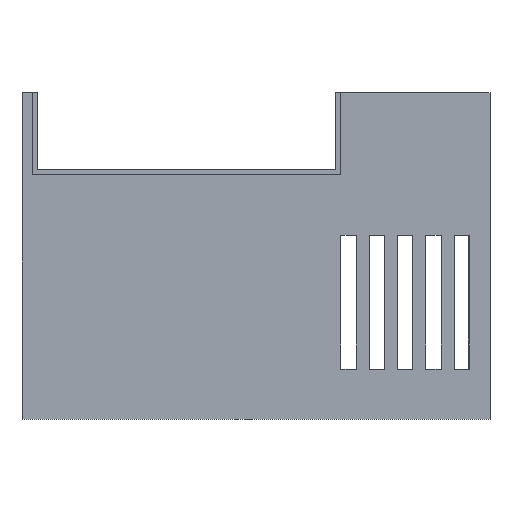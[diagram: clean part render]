
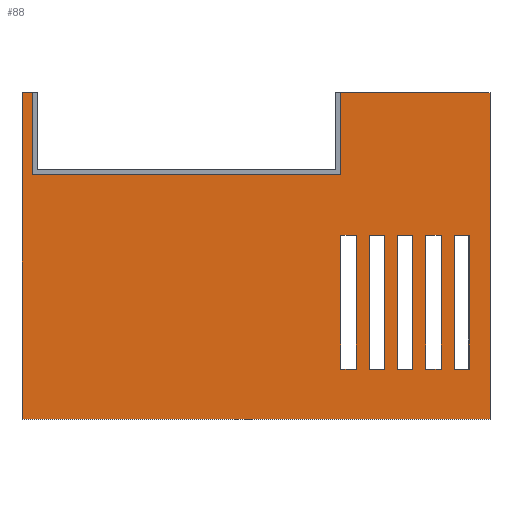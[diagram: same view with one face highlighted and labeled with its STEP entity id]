
A CAD part, top view. The second image highlights one B-rep face of the part: STEP entity #88.
In plain terms, the highlighted planar face has unit normal (0, 0, 1).
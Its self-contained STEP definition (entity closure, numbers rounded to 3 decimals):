
#24 = VERTEX_POINT('',#25);
#25 = CARTESIAN_POINT('',(0.,0.,32.7));
#40 = VERTEX_POINT('',#41);
#41 = CARTESIAN_POINT('',(0.,63.5,32.7));
#47 = EDGE_CURVE('',#24,#40,#48,.T.);
#48 = LINE('',#49,#50);
#49 = CARTESIAN_POINT('',(0.,0.,32.7));
#50 = VECTOR('',#51,1.);
#51 = DIRECTION('',(0.,1.,0.));
#70 = EDGE_CURVE('',#24,#71,#73,.T.);
#71 = VERTEX_POINT('',#72);
#72 = CARTESIAN_POINT('',(91.,0.,32.7));
#73 = LINE('',#74,#75);
#74 = CARTESIAN_POINT('',(0.,0.,32.7));
#75 = VECTOR('',#76,1.);
#76 = DIRECTION('',(1.,0.,0.));
#88 = ADVANCED_FACE('',(#89,#139,#173,#207,#241,#275),#309,.T.);
#89 = FACE_BOUND('',#90,.T.);
#90 = EDGE_LOOP('',(#91,#99,#100,#101,#109,#117,#125,#133));
#91 = ORIENTED_EDGE('',*,*,#92,.F.);
#92 = EDGE_CURVE('',#40,#93,#95,.T.);
#93 = VERTEX_POINT('',#94);
#94 = CARTESIAN_POINT('',(2.,63.5,32.7));
#95 = LINE('',#96,#97);
#96 = CARTESIAN_POINT('',(0.,63.5,32.7));
#97 = VECTOR('',#98,1.);
#98 = DIRECTION('',(1.,0.,0.));
#99 = ORIENTED_EDGE('',*,*,#47,.F.);
#100 = ORIENTED_EDGE('',*,*,#70,.T.);
#101 = ORIENTED_EDGE('',*,*,#102,.T.);
#102 = EDGE_CURVE('',#71,#103,#105,.T.);
#103 = VERTEX_POINT('',#104);
#104 = CARTESIAN_POINT('',(91.,63.5,32.7));
#105 = LINE('',#106,#107);
#106 = CARTESIAN_POINT('',(91.,0.,32.7));
#107 = VECTOR('',#108,1.);
#108 = DIRECTION('',(0.,1.,0.));
#109 = ORIENTED_EDGE('',*,*,#110,.F.);
#110 = EDGE_CURVE('',#111,#103,#113,.T.);
#111 = VERTEX_POINT('',#112);
#112 = CARTESIAN_POINT('',(62.,63.5,32.7));
#113 = LINE('',#114,#115);
#114 = CARTESIAN_POINT('',(0.,63.5,32.7));
#115 = VECTOR('',#116,1.);
#116 = DIRECTION('',(1.,0.,0.));
#117 = ORIENTED_EDGE('',*,*,#118,.F.);
#118 = EDGE_CURVE('',#119,#111,#121,.T.);
#119 = VERTEX_POINT('',#120);
#120 = CARTESIAN_POINT('',(62.,47.5,32.7));
#121 = LINE('',#122,#123);
#122 = CARTESIAN_POINT('',(62.,23.75,32.7));
#123 = VECTOR('',#124,1.);
#124 = DIRECTION('',(0.,1.,0.));
#125 = ORIENTED_EDGE('',*,*,#126,.T.);
#126 = EDGE_CURVE('',#119,#127,#129,.T.);
#127 = VERTEX_POINT('',#128);
#128 = CARTESIAN_POINT('',(2.,47.5,32.7));
#129 = LINE('',#130,#131);
#130 = CARTESIAN_POINT('',(1.,47.5,32.7));
#131 = VECTOR('',#132,1.);
#132 = DIRECTION('',(-1.,0.,0.));
#133 = ORIENTED_EDGE('',*,*,#134,.T.);
#134 = EDGE_CURVE('',#127,#93,#135,.T.);
#135 = LINE('',#136,#137);
#136 = CARTESIAN_POINT('',(2.,23.75,32.7));
#137 = VECTOR('',#138,1.);
#138 = DIRECTION('',(0.,1.,0.));
#139 = FACE_BOUND('',#140,.T.);
#140 = EDGE_LOOP('',(#141,#151,#159,#167));
#141 = ORIENTED_EDGE('',*,*,#142,.F.);
#142 = EDGE_CURVE('',#143,#145,#147,.T.);
#143 = VERTEX_POINT('',#144);
#144 = CARTESIAN_POINT('',(65.,9.75,32.7));
#145 = VERTEX_POINT('',#146);
#146 = CARTESIAN_POINT('',(65.,35.75,32.7));
#147 = LINE('',#148,#149);
#148 = CARTESIAN_POINT('',(65.,4.875,32.7));
#149 = VECTOR('',#150,1.);
#150 = DIRECTION('',(0.,1.,0.));
#151 = ORIENTED_EDGE('',*,*,#152,.T.);
#152 = EDGE_CURVE('',#143,#153,#155,.T.);
#153 = VERTEX_POINT('',#154);
#154 = CARTESIAN_POINT('',(62.,9.75,32.7));
#155 = LINE('',#156,#157);
#156 = CARTESIAN_POINT('',(31.,9.75,32.7));
#157 = VECTOR('',#158,1.);
#158 = DIRECTION('',(-1.,0.,0.));
#159 = ORIENTED_EDGE('',*,*,#160,.T.);
#160 = EDGE_CURVE('',#153,#161,#163,.T.);
#161 = VERTEX_POINT('',#162);
#162 = CARTESIAN_POINT('',(62.,35.75,32.7));
#163 = LINE('',#164,#165);
#164 = CARTESIAN_POINT('',(62.,4.875,32.7));
#165 = VECTOR('',#166,1.);
#166 = DIRECTION('',(0.,1.,0.));
#167 = ORIENTED_EDGE('',*,*,#168,.F.);
#168 = EDGE_CURVE('',#145,#161,#169,.T.);
#169 = LINE('',#170,#171);
#170 = CARTESIAN_POINT('',(31.,35.75,32.7));
#171 = VECTOR('',#172,1.);
#172 = DIRECTION('',(-1.,0.,0.));
#173 = FACE_BOUND('',#174,.T.);
#174 = EDGE_LOOP('',(#175,#185,#193,#201));
#175 = ORIENTED_EDGE('',*,*,#176,.F.);
#176 = EDGE_CURVE('',#177,#179,#181,.T.);
#177 = VERTEX_POINT('',#178);
#178 = CARTESIAN_POINT('',(70.5,9.75,32.7));
#179 = VERTEX_POINT('',#180);
#180 = CARTESIAN_POINT('',(70.5,35.75,32.7));
#181 = LINE('',#182,#183);
#182 = CARTESIAN_POINT('',(70.5,4.875,32.7));
#183 = VECTOR('',#184,1.);
#184 = DIRECTION('',(0.,1.,0.));
#185 = ORIENTED_EDGE('',*,*,#186,.T.);
#186 = EDGE_CURVE('',#177,#187,#189,.T.);
#187 = VERTEX_POINT('',#188);
#188 = CARTESIAN_POINT('',(67.5,9.75,32.7));
#189 = LINE('',#190,#191);
#190 = CARTESIAN_POINT('',(33.75,9.75,32.7));
#191 = VECTOR('',#192,1.);
#192 = DIRECTION('',(-1.,0.,0.));
#193 = ORIENTED_EDGE('',*,*,#194,.T.);
#194 = EDGE_CURVE('',#187,#195,#197,.T.);
#195 = VERTEX_POINT('',#196);
#196 = CARTESIAN_POINT('',(67.5,35.75,32.7));
#197 = LINE('',#198,#199);
#198 = CARTESIAN_POINT('',(67.5,4.875,32.7));
#199 = VECTOR('',#200,1.);
#200 = DIRECTION('',(0.,1.,0.));
#201 = ORIENTED_EDGE('',*,*,#202,.F.);
#202 = EDGE_CURVE('',#179,#195,#203,.T.);
#203 = LINE('',#204,#205);
#204 = CARTESIAN_POINT('',(33.75,35.75,32.7));
#205 = VECTOR('',#206,1.);
#206 = DIRECTION('',(-1.,0.,0.));
#207 = FACE_BOUND('',#208,.T.);
#208 = EDGE_LOOP('',(#209,#219,#227,#235));
#209 = ORIENTED_EDGE('',*,*,#210,.F.);
#210 = EDGE_CURVE('',#211,#213,#215,.T.);
#211 = VERTEX_POINT('',#212);
#212 = CARTESIAN_POINT('',(76.,9.75,32.7));
#213 = VERTEX_POINT('',#214);
#214 = CARTESIAN_POINT('',(76.,35.75,32.7));
#215 = LINE('',#216,#217);
#216 = CARTESIAN_POINT('',(76.,4.875,32.7));
#217 = VECTOR('',#218,1.);
#218 = DIRECTION('',(0.,1.,0.));
#219 = ORIENTED_EDGE('',*,*,#220,.T.);
#220 = EDGE_CURVE('',#211,#221,#223,.T.);
#221 = VERTEX_POINT('',#222);
#222 = CARTESIAN_POINT('',(73.,9.75,32.7));
#223 = LINE('',#224,#225);
#224 = CARTESIAN_POINT('',(36.5,9.75,32.7));
#225 = VECTOR('',#226,1.);
#226 = DIRECTION('',(-1.,0.,0.));
#227 = ORIENTED_EDGE('',*,*,#228,.T.);
#228 = EDGE_CURVE('',#221,#229,#231,.T.);
#229 = VERTEX_POINT('',#230);
#230 = CARTESIAN_POINT('',(73.,35.75,32.7));
#231 = LINE('',#232,#233);
#232 = CARTESIAN_POINT('',(73.,4.875,32.7));
#233 = VECTOR('',#234,1.);
#234 = DIRECTION('',(0.,1.,0.));
#235 = ORIENTED_EDGE('',*,*,#236,.F.);
#236 = EDGE_CURVE('',#213,#229,#237,.T.);
#237 = LINE('',#238,#239);
#238 = CARTESIAN_POINT('',(36.5,35.75,32.7));
#239 = VECTOR('',#240,1.);
#240 = DIRECTION('',(-1.,0.,0.));
#241 = FACE_BOUND('',#242,.T.);
#242 = EDGE_LOOP('',(#243,#253,#261,#269));
#243 = ORIENTED_EDGE('',*,*,#244,.F.);
#244 = EDGE_CURVE('',#245,#247,#249,.T.);
#245 = VERTEX_POINT('',#246);
#246 = CARTESIAN_POINT('',(81.5,9.75,32.7));
#247 = VERTEX_POINT('',#248);
#248 = CARTESIAN_POINT('',(81.5,35.75,32.7));
#249 = LINE('',#250,#251);
#250 = CARTESIAN_POINT('',(81.5,4.875,32.7));
#251 = VECTOR('',#252,1.);
#252 = DIRECTION('',(0.,1.,0.));
#253 = ORIENTED_EDGE('',*,*,#254,.T.);
#254 = EDGE_CURVE('',#245,#255,#257,.T.);
#255 = VERTEX_POINT('',#256);
#256 = CARTESIAN_POINT('',(78.5,9.75,32.7));
#257 = LINE('',#258,#259);
#258 = CARTESIAN_POINT('',(39.25,9.75,32.7));
#259 = VECTOR('',#260,1.);
#260 = DIRECTION('',(-1.,0.,0.));
#261 = ORIENTED_EDGE('',*,*,#262,.T.);
#262 = EDGE_CURVE('',#255,#263,#265,.T.);
#263 = VERTEX_POINT('',#264);
#264 = CARTESIAN_POINT('',(78.5,35.75,32.7));
#265 = LINE('',#266,#267);
#266 = CARTESIAN_POINT('',(78.5,4.875,32.7));
#267 = VECTOR('',#268,1.);
#268 = DIRECTION('',(0.,1.,0.));
#269 = ORIENTED_EDGE('',*,*,#270,.F.);
#270 = EDGE_CURVE('',#247,#263,#271,.T.);
#271 = LINE('',#272,#273);
#272 = CARTESIAN_POINT('',(39.25,35.75,32.7));
#273 = VECTOR('',#274,1.);
#274 = DIRECTION('',(-1.,0.,0.));
#275 = FACE_BOUND('',#276,.T.);
#276 = EDGE_LOOP('',(#277,#287,#295,#303));
#277 = ORIENTED_EDGE('',*,*,#278,.F.);
#278 = EDGE_CURVE('',#279,#281,#283,.T.);
#279 = VERTEX_POINT('',#280);
#280 = CARTESIAN_POINT('',(87.,35.75,32.7));
#281 = VERTEX_POINT('',#282);
#282 = CARTESIAN_POINT('',(84.,35.75,32.7));
#283 = LINE('',#284,#285);
#284 = CARTESIAN_POINT('',(42.,35.75,32.7));
#285 = VECTOR('',#286,1.);
#286 = DIRECTION('',(-1.,0.,0.));
#287 = ORIENTED_EDGE('',*,*,#288,.F.);
#288 = EDGE_CURVE('',#289,#279,#291,.T.);
#289 = VERTEX_POINT('',#290);
#290 = CARTESIAN_POINT('',(87.,9.75,32.7));
#291 = LINE('',#292,#293);
#292 = CARTESIAN_POINT('',(87.,4.875,32.7));
#293 = VECTOR('',#294,1.);
#294 = DIRECTION('',(0.,1.,0.));
#295 = ORIENTED_EDGE('',*,*,#296,.T.);
#296 = EDGE_CURVE('',#289,#297,#299,.T.);
#297 = VERTEX_POINT('',#298);
#298 = CARTESIAN_POINT('',(84.,9.75,32.7));
#299 = LINE('',#300,#301);
#300 = CARTESIAN_POINT('',(42.,9.75,32.7));
#301 = VECTOR('',#302,1.);
#302 = DIRECTION('',(-1.,0.,0.));
#303 = ORIENTED_EDGE('',*,*,#304,.T.);
#304 = EDGE_CURVE('',#297,#281,#305,.T.);
#305 = LINE('',#306,#307);
#306 = CARTESIAN_POINT('',(84.,4.875,32.7));
#307 = VECTOR('',#308,1.);
#308 = DIRECTION('',(0.,1.,0.));
#309 = PLANE('',#310);
#310 = AXIS2_PLACEMENT_3D('',#311,#312,#313);
#311 = CARTESIAN_POINT('',(0.,0.,32.7));
#312 = DIRECTION('',(0.,0.,1.));
#313 = DIRECTION('',(1.,0.,0.));
